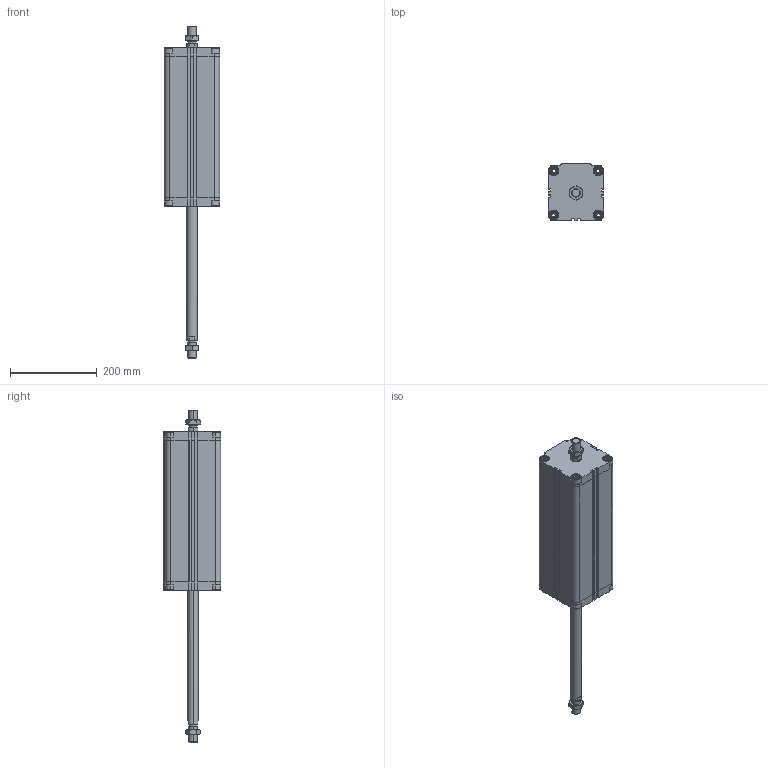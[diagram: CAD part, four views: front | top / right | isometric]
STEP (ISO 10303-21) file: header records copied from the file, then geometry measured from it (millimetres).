
FILE_DESCRIPTION (( 'STEP AP203' ), '1' );
FILE_NAME ('CDVU100-300M-P.STEP', '2020-07-21T16:41:46', ( '' ), ( '' ), 'SwSTEP 2.0', 'SolidWorks 2019', '' );
FILE_SCHEMA (( 'CONFIG_CONTROL_DESIGN' ));
Length unit declared in the file: millimetre
Products named in the file (1): CDVU100-300M-P
Bounding box: 128 x 133 x 766.5 mm (x, y, z)
Volume: 3724916.2 mm3; surface area: 516948.2 mm2
Topology: 4 solids, 4 shells, 706 faces, 1888 edges, 1234 vertices
Faces by surface type: plane 410, cylinder 216, cone 80
Entity records: 23055 total; most frequent: CARTESIAN_POINT 5265, ORIENTED_EDGE 3768, DIRECTION 3610, EDGE_CURVE 1884, AXIS2_PLACEMENT_3D 1235, VERTEX_POINT 1234, VECTOR 1140, LINE 1140
